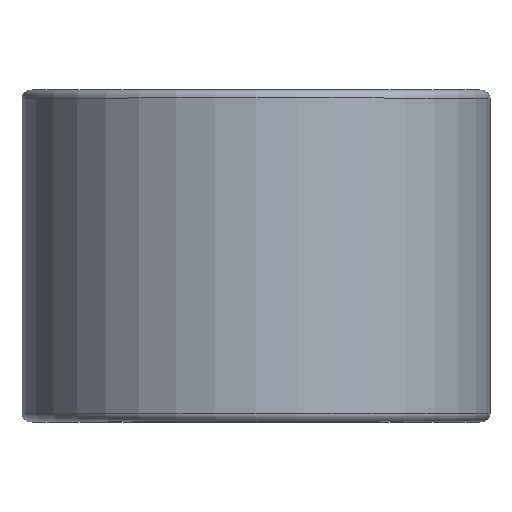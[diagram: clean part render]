
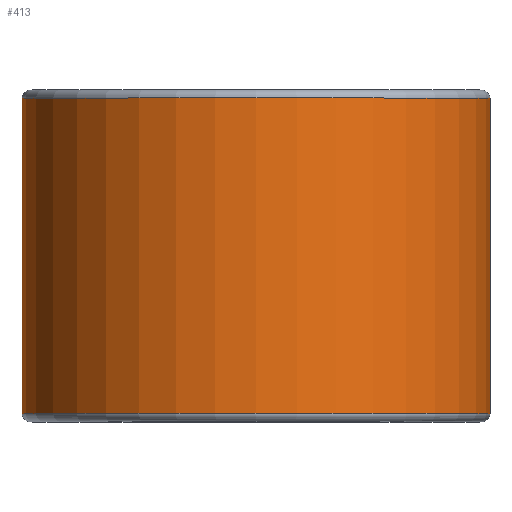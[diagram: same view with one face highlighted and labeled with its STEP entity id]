
A CAD part, top view. The second image highlights one B-rep face of the part: STEP entity #413.
In plain terms, the highlighted cylindrical face has radius 282 mm (diameter 564 mm), a full revolution.
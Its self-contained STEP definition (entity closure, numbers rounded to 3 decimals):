
#45=FACE_BOUND('',#139,.T.);
#91=FACE_OUTER_BOUND('',#138,.T.);
#138=EDGE_LOOP('',(#328));
#139=EDGE_LOOP('',(#329));
#204=CIRCLE('',#475,282.);
#206=CIRCLE('',#478,282.);
#242=VERTEX_POINT('',#722);
#244=VERTEX_POINT('',#727);
#280=EDGE_CURVE('',#242,#242,#204,.T.);
#282=EDGE_CURVE('',#244,#244,#206,.T.);
#328=ORIENTED_EDGE('',*,*,#282,.F.);
#329=ORIENTED_EDGE('',*,*,#280,.F.);
#386=CYLINDRICAL_SURFACE('',#477,282.);
#413=ADVANCED_FACE('',(#91,#45),#386,.T.);
#475=AXIS2_PLACEMENT_3D('',#723,#586,#587);
#477=AXIS2_PLACEMENT_3D('',#726,#590,#591);
#478=AXIS2_PLACEMENT_3D('',#728,#592,#593);
#586=DIRECTION('center_axis',(0.,1.,0.));
#587=DIRECTION('ref_axis',(1.,0.,0.));
#590=DIRECTION('center_axis',(0.,1.,0.));
#591=DIRECTION('ref_axis',(1.,0.,0.));
#592=DIRECTION('center_axis',(0.,-1.,0.));
#593=DIRECTION('ref_axis',(1.,0.,0.));
#722=CARTESIAN_POINT('',(-282.,190.,0.));
#723=CARTESIAN_POINT('Origin',(0.,190.,0.));
#726=CARTESIAN_POINT('Origin',(0.,0.,0.));
#727=CARTESIAN_POINT('',(-282.,-190.,0.));
#728=CARTESIAN_POINT('Origin',(0.,-190.,0.));
